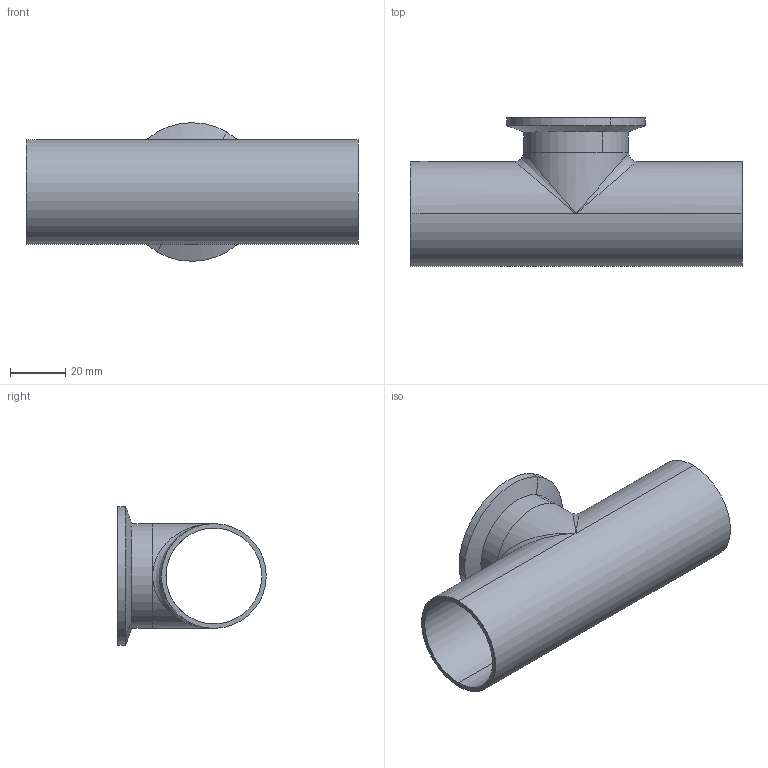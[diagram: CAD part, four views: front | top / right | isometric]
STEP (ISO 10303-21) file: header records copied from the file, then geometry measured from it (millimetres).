
FILE_DESCRIPTION (( 'STEP AP203' ), '1' );
FILE_NAME ('E7WWCS1.5.STEP', '2018-05-02T18:33:52', ( 'vneprd' ), ( 'Microsoft' ), 'SwSTEP 2.0', 'SolidWorks 2014', '' );
FILE_SCHEMA (( 'CONFIG_CONTROL_DESIGN' ));
Length unit declared in the file: inch
Products named in the file (3): E7WWWS1.5; E7WWCS1.5; EG2CS1.5
Assembly tree (2 placements, depth 2):
  E7WWCS1.5
    E7WWWS1.5
    EG2CS1.5
Bounding box: 120.65 x 53.98 x 50.39 mm (x, y, z)
Volume: 27987.2 mm3; surface area: 33005.8 mm2
Topology: 2 solids, 2 shells, 37 faces, 78 edges, 41 vertices
Faces by surface type: cylinder 17, plane 6, torus 6, cone 6, bspline 2
Entity records: 1468 total; most frequent: CARTESIAN_POINT 383, DIRECTION 189, ORIENTED_EDGE 148, AXIS2_PLACEMENT_3D 83, EDGE_CURVE 74, EDGE_LOOP 43, CIRCLE 43, VERTEX_POINT 41
